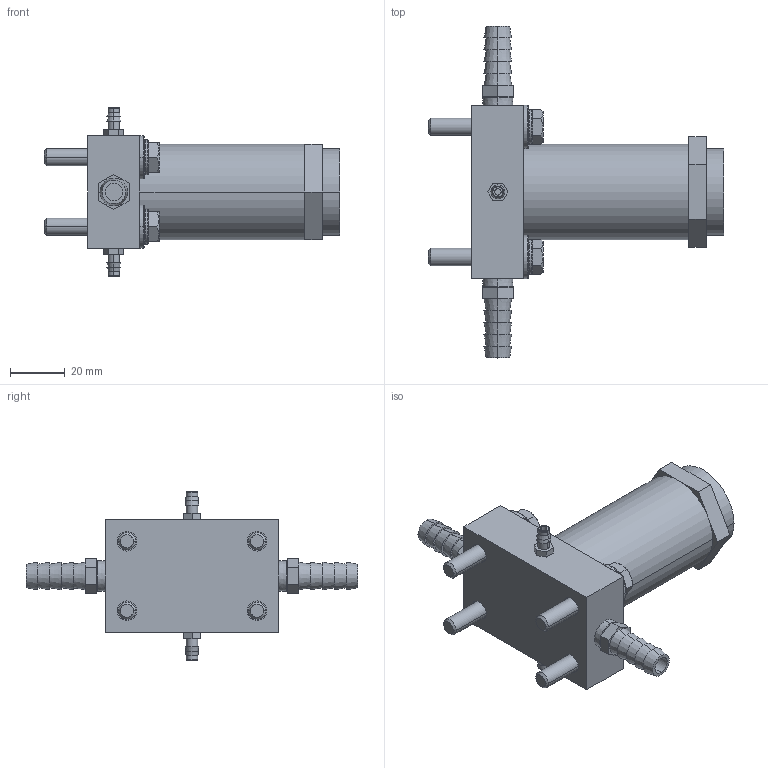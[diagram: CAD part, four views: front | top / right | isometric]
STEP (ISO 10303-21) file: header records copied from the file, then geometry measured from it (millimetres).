
FILE_DESCRIPTION((''),'2;1');
FILE_NAME('XAR3_ASM','2017-08-24T',('jennifer.elliott'),('CenterLine (Windsor) Ltd - Automation Components Division'),'PRO/ENGINEER BY PARAMETRIC TECHNOLOGY CORPORATION, 2015030','PRO/ENGINEER BY PARAMETRIC TECHNOLOGY CORPORATION, 2015030','');
FILE_SCHEMA(('AUTOMOTIVE_DESIGN { 1 0 10303 214 1 1 1 1 }'));
Length unit declared in the file: inch
Products named in the file (18): PRT0900; PRT0901; PRT0902; PRT0903; PRT0904; PRT0905; PRT0906; PRT0907; PRT0908; PRT0909; PRT0910; PRT0911; ASM0013_ASM; PRT0912; PRT0913; PRT0914; PRT0915; XAR3_ASM
Assembly tree (17 placements, depth 3):
  XAR3_ASM
    PRT0900
    PRT0901
    PRT0902
    PRT0903
    PRT0904
    PRT0905
    PRT0906
    PRT0907
    ASM0013_ASM
      PRT0908
      PRT0909
      PRT0910
      PRT0911
    PRT0912
    PRT0913
    PRT0914
    PRT0915
Bounding box: 107.95 x 121.41 x 61.9 mm (x, y, z)
Volume: 127313.5 mm3; surface area: 34994.6 mm2
Topology: 16 solids, 16 shells, 282 faces, 646 edges, 420 vertices
Faces by surface type: plane 126, cone 64, cylinder 60, torus 32
Entity records: 9503 total; most frequent: CARTESIAN_POINT 1888, DIRECTION 1496, ORIENTED_EDGE 1292, EDGE_CURVE 646, AXIS2_PLACEMENT_3D 617, VERTEX_POINT 420, EDGE_LOOP 330, CIRCLE 296
